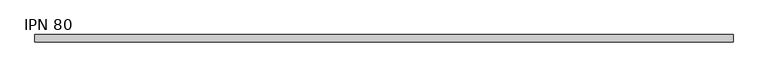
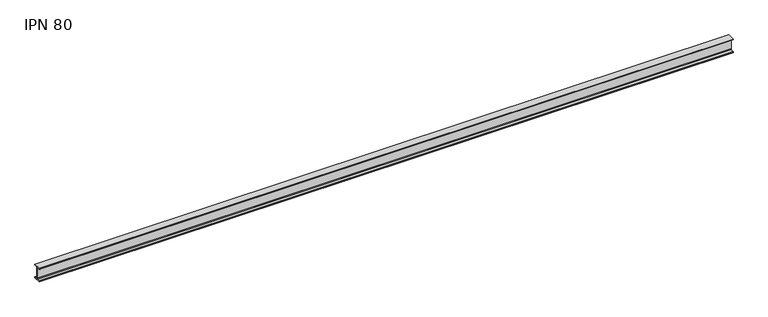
"""IFC4 building model written with IfcOpenShell, lengths in millimetres: beam geometry, IPN - Secciones en I con alas cónicas : IPN 80."""

import ifcopenshell
import ifcopenshell.guid

model = None  # the IFC model being written
_history = None  # IfcOwnerHistory: only IFC2X3 demands one
_inside = {}  # id of a spatial element -> (the spatial element, [elements in it])
_under = {}  # id of a project, library or spatial element -> (it, [spatial elements below it])
_declared = {}  # id of a project -> (the project, [libraries it declares])
_typed = {}  # id of a type object -> (the type object, [elements of that type])
_made_of = {}  # id of a material, layer set ... -> (it, [elements and type objects made of it])


def new_model(schema):
    """Start an empty IFC model of exactly this schema.

    Asked for "IFC4X3", IfcOpenShell would pick the latest addendum, in which some entities
    have other attributes; the version numbers below select the first issue.
    IFC2X3 requires an IfcOwnerHistory on every rooted entity: one is made here for all.
    """
    global model, _history
    if schema == "IFC4X3":
        model = ifcopenshell.file(schema_version=(4, 3, 0, 0))
    else:
        model = ifcopenshell.file(schema=schema)
    _inside.clear()
    _under.clear()
    _declared.clear()
    _typed.clear()
    _made_of.clear()
    _history = None
    if model.schema == "IFC2X3":
        org = make("IfcOrganization", Name="unknown")
        user = make(
            "IfcPersonAndOrganization",
            ThePerson=make("IfcPerson", FamilyName="unknown"),
            TheOrganization=org,
        )
        app = make(
            "IfcApplication",
            ApplicationDeveloper=org,
            Version="unknown",
            ApplicationFullName="unknown",
            ApplicationIdentifier="unknown",
        )
        _history = make(
            "IfcOwnerHistory",
            OwningUser=user,
            OwningApplication=app,
            ChangeAction="ADDED",
            CreationDate=0,
        )
    return model


def make(cls, **values):
    """One entity of the class cls with the attributes given. An attribute that is None is left unset."""
    return model.create_entity(
        cls, **{name: value for name, value in values.items() if value is not None}
    )


def rooted(cls, **values):
    """An entity with a GlobalId (a new one), such as an element, a storey or a relation."""
    return make(cls, GlobalId=ifcopenshell.guid.new(), OwnerHistory=_history, **values)


def si_unit(unit_type, name, prefix=None):
    """IfcSIUnit, for example si_unit("LENGTHUNIT", "METRE", prefix="MILLI")."""
    return make("IfcSIUnit", UnitType=unit_type, Prefix=prefix, Name=name)


def assignment(units):
    """IfcUnitAssignment: the units of a project."""
    return None if units is None else make("IfcUnitAssignment", Units=units)


def point(xyz):
    """IfcCartesianPoint."""
    return None if xyz is None else make("IfcCartesianPoint", Coordinates=xyz)


def direction(xyz):
    """IfcDirection."""
    return None if xyz is None else make("IfcDirection", DirectionRatios=xyz)


def frame(location, z_axis=None, x_axis=None):
    """IfcAxis2Placement3D, a coordinate frame: its origin and axes. An axis left out is left unset."""
    return make(
        "IfcAxis2Placement3D",
        Location=point(location),
        Axis=direction(z_axis),
        RefDirection=direction(x_axis),
    )


def frame_2d(location, x_axis=None):
    """IfcAxis2Placement2D, a coordinate frame in the plane: its origin and x axis."""
    return make(
        "IfcAxis2Placement2D", Location=point(location), RefDirection=direction(x_axis)
    )


def origin():
    """The frame at (0, 0, 0) with its axes left unset."""
    return frame((0.0, 0.0, 0.0))


def place(relative_to, where):
    """IfcLocalPlacement: puts the frame where relative to a parent placement (None: the world)."""
    return make(
        "IfcLocalPlacement", PlacementRelTo=relative_to, RelativePlacement=where
    )


def context(
    kind, dimensions, precision=None, world=None, true_north=None, identifier=None
):
    """IfcGeometricRepresentationContext, for example the 3D "Model" context."""
    return make(
        "IfcGeometricRepresentationContext",
        ContextIdentifier=identifier,
        ContextType=kind,
        CoordinateSpaceDimension=dimensions,
        Precision=precision,
        WorldCoordinateSystem=world,
        TrueNorth=true_north,
    )


def project(units=None, contexts=None):
    """IfcProject with its units and contexts."""
    return rooted(
        "IfcProject",
        Name="project",
        RepresentationContexts=contexts,
        UnitsInContext=assignment(units),
    )


def spatial(cls, under=None, at=None, **own):
    """A site, building, storey or space (cls), placed at a placement, below another one or the project."""
    s = rooted(cls, ObjectPlacement=at, **own)
    if under is not None:
        _under.setdefault(under.id(), (under, []))[1].append(s)
    return s


def polyline(points):
    """IfcPolyline through the points."""
    return make("IfcPolyline", Points=[point(p) for p in points])


def circle_curve(where, radius):
    """IfcCircle in the frame where."""
    return make("IfcCircle", Position=where, Radius=radius)


def trimmed(basis, trim1, trim2, sense, master):
    """IfcTrimmedCurve: the piece of a basis curve between two trims."""
    return make(
        "IfcTrimmedCurve",
        BasisCurve=basis,
        Trim1=trim1,
        Trim2=trim2,
        SenseAgreement=sense,
        MasterRepresentation=master,
    )


def segment(curve, same_sense, transition):
    """IfcCompositeCurveSegment."""
    return make(
        "IfcCompositeCurveSegment",
        Transition=transition,
        SameSense=same_sense,
        ParentCurve=curve,
    )


def composite_curve(segments, self_intersect=None):
    """IfcCompositeCurve: segments joined end to end."""
    return make("IfcCompositeCurve", Segments=segments, SelfIntersect=self_intersect)


def outline(outer, holes=None, kind="AREA"):
    """IfcArbitraryClosedProfileDef: a profile drawn as a closed curve; with holes, ...WithVoids."""
    if holes is None:
        return make("IfcArbitraryClosedProfileDef", ProfileType=kind, OuterCurve=outer)
    return make(
        "IfcArbitraryProfileDefWithVoids",
        ProfileType=kind,
        OuterCurve=outer,
        InnerCurves=holes,
    )


def extrude(swept, where, along, depth):
    """IfcExtrudedAreaSolid: the profile swept, set in the frame where, extruded along a direction by depth."""
    return make(
        "IfcExtrudedAreaSolid",
        SweptArea=swept,
        Position=where,
        ExtrudedDirection=direction(along),
        Depth=depth,
    )


def shape(context_of_items, identifier, shape_type, items):
    """IfcShapeRepresentation: the items that make up one representation, for example the "Body"."""
    return make(
        "IfcShapeRepresentation",
        ContextOfItems=context_of_items,
        RepresentationIdentifier=identifier,
        RepresentationType=shape_type,
        Items=items,
    )


def source(mapping_origin, context_of_items, identifier, shape_type, items):
    """IfcRepresentationMap: a shape defined once, which mapped items show again and again."""
    return make(
        "IfcRepresentationMap",
        MappingOrigin=mapping_origin,
        MappedRepresentation=shape(context_of_items, identifier, shape_type, items),
    )


def transform(
    local_origin,
    x_axis=None,
    y_axis=None,
    z_axis=None,
    scale=None,
    scale2=None,
    scale3=None,
    uniform=True,
):
    """IfcCartesianTransformationOperator3D, or its non-uniform kind. x_axis, y_axis, z_axis: its Axis1, 2, 3."""
    if uniform:
        return make(
            "IfcCartesianTransformationOperator3D",
            Axis1=direction(x_axis),
            Axis2=direction(y_axis),
            LocalOrigin=point(local_origin),
            Scale=scale,
            Axis3=direction(z_axis),
        )
    return make(
        "IfcCartesianTransformationOperator3DnonUniform",
        Axis1=direction(x_axis),
        Axis2=direction(y_axis),
        LocalOrigin=point(local_origin),
        Scale=scale,
        Axis3=direction(z_axis),
        Scale2=scale2,
        Scale3=scale3,
    )


def mapped(mapping_source, mapping_target):
    """IfcMappedItem: shows the shape of a source again, moved by a transform."""
    return make(
        "IfcMappedItem", MappingSource=mapping_source, MappingTarget=mapping_target
    )


def made_of(thing, what):
    """Note that an element or type object is made of a material, layer set ...; save() writes the relation."""
    if what is not None:
        _made_of.setdefault(what.id(), (what, []))[1].append(thing)
    return thing


def element(
    cls,
    number,
    at=None,
    inside=None,
    cuts=None,
    type_object=None,
    material=None,
    context=None,
    identifier="Body",
    shape_type=None,
    held_by="IfcProductDefinitionShape",
    body=None,
    shapes=None,
    **own,
):
    """One element of the class cls, such as IfcWall. Its Tag is "e" and its number.

    at: its placement. inside: the storey or other place that contains it. cuts: it is an
    opening in that element (IfcRelVoidsElement). A single representation is given by context,
    identifier, shape_type and body (its items); several are given by shapes. held_by: the class
    of the entity that holds the representations. save() writes the other relations.
    """
    e = rooted(cls, Tag="e%d" % number, ObjectPlacement=at, **own)
    if body is not None:
        shapes = [shape(context, identifier, shape_type, body)]
    if shapes is not None:
        e.Representation = make(held_by, Representations=shapes)
    if inside is not None:
        _inside.setdefault(inside.id(), (inside, []))[1].append(e)
    if cuts is not None:
        rooted(
            "IfcRelVoidsElement", RelatingBuildingElement=cuts, RelatedOpeningElement=e
        )
    if type_object is not None:
        _typed.setdefault(type_object.id(), (type_object, []))[1].append(e)
    return made_of(e, material)


def aggregate(whole, parts):
    """IfcRelAggregates: a whole, such as a stair, and the parts it consists of."""
    return rooted("IfcRelAggregates", RelatingObject=whole, RelatedObjects=parts)


def save(model, path):
    """Write the relations noted so far, then the file.

    IfcRelAggregates (storeys below a building ...), IfcRelContainedInSpatialStructure (elements
    in a storey), IfcRelDefinesByType, IfcRelAssociatesMaterial and IfcRelDeclares: one each for
    every whole, place, type object, material and project.
    """
    for whole, parts in _under.values():
        aggregate(whole, parts)
    for where, things in _inside.values():
        rooted(
            "IfcRelContainedInSpatialStructure",
            RelatedElements=things,
            RelatingStructure=where,
        )
    for kind, things in _typed.values():
        rooted("IfcRelDefinesByType", RelatedObjects=things, RelatingType=kind)
    for what, things in _made_of.values():
        rooted("IfcRelAssociatesMaterial", RelatedObjects=things, RelatingMaterial=what)
    for by, libraries in _declared.values():
        rooted("IfcRelDeclares", RelatingContext=by, RelatedDefinitions=libraries)
    model.write(path)


def ipn_80_99c5317e(model_context):
    return source(origin(), model_context, "Body", "SweptSolid", [
        extrude(outline(composite_curve([segment(polyline([(21.0, 40.0), (21.0, 37.5704306)]), True, "CONTINUOUS"), segment(trimmed(circle_curve(frame_2d((18.7, 37.5704306)), 2.3), [point((21.0, 37.5704306))], [point((19.01889, 35.2926446))], False, "CARTESIAN"), True, "CONTINUOUS"), segment(polyline([(19.01889, 35.2926446), (5.3092734, 33.3732983)]), True, "CONTINUOUS"), segment(trimmed(circle_curve(frame_2d((5.85, 29.5109655)), 3.9), [point((5.3092734, 33.3732983))], [point((1.95, 29.5109655))], True, "CARTESIAN"), True, "CONTINUOUS"), segment(polyline([(1.95, 29.5109655), (1.95, -29.5109655)]), True, "CONTINUOUS"), segment(trimmed(circle_curve(frame_2d((5.85, -29.5109655)), 3.9), [point((1.95, -29.5109655))], [point((5.3092734, -33.3732983))], True, "CARTESIAN"), True, "CONTINUOUS"), segment(polyline([(5.3092734, -33.3732983), (19.01889, -35.2926446)]), True, "CONTINUOUS"), segment(trimmed(circle_curve(frame_2d((18.7, -37.5704306)), 2.3), [point((19.01889, -35.2926446))], [point((21.0, -37.5704306))], False, "CARTESIAN"), True, "CONTINUOUS"), segment(polyline([(21.0, -37.5704306), (21.0, -40.0), (-21.0, -40.0), (-21.0, -37.5704306)]), True, "CONTINUOUS"), segment(trimmed(circle_curve(frame_2d((-18.7, -37.5704306)), 2.3), [point((-21.0, -37.5704306))], [point((-19.01889, -35.2926446))], False, "CARTESIAN"), True, "CONTINUOUS"), segment(polyline([(-19.01889, -35.2926446), (-5.3092734, -33.3732983)]), True, "CONTINUOUS"), segment(trimmed(circle_curve(frame_2d((-5.85, -29.5109655)), 3.9), [point((-5.3092734, -33.3732983))], [point((-1.95, -29.5109655))], True, "CARTESIAN"), True, "CONTINUOUS"), segment(polyline([(-1.95, -29.5109655), (-1.95, 29.5109655)]), True, "CONTINUOUS"), segment(trimmed(circle_curve(frame_2d((-5.85, 29.5109655)), 3.9), [point((-1.95, 29.5109655))], [point((-5.3092734, 33.3732983))], True, "CARTESIAN"), True, "CONTINUOUS"), segment(polyline([(-5.3092734, 33.3732983), (-19.01889, 35.2926446)]), True, "CONTINUOUS"), segment(trimmed(circle_curve(frame_2d((-18.7, 37.5704306)), 2.3), [point((-19.01889, 35.2926446))], [point((-21.0, 37.5704306))], False, "CARTESIAN"), True, "CONTINUOUS"), segment(polyline([(-21.0, 37.5704306), (-21.0, 40.0), (21.0, 40.0)]), True, "CONTINUOUS")], self_intersect=False)), frame((-1963.85, 0.0, 0.0), z_axis=(1.0, 0.0, 0.0), x_axis=(0.0, 1.0, 0.0)), (0.0, 0.0, 1.0), 3913.85),
    ])


if __name__ == "__main__":
    model = new_model("IFC4")
    model_context = context("Model", 3, world=origin())
    ifc_project = project(units=[si_unit("LENGTHUNIT", "METRE", prefix="MILLI")], contexts=[model_context])
    site = spatial("IfcSite", under=ifc_project)
    building = spatial("IfcBuilding", under=site)
    placement = place(None, origin())
    ipn_80_shape = ipn_80_99c5317e(model_context)
    element("IfcBeam", 1, ObjectType="IPN - Secciones en I con alas cónicas : IPN 80", at=placement, inside=building, context=model_context, shape_type="MappedRepresentation", body=[
        mapped(ipn_80_shape, transform((0.0, 0.0, 0.0), x_axis=(1.0, 0.0, 0.0), y_axis=(0.0, 1.0, 0.0), z_axis=(0.0, 0.0, 1.0))),
    ])
    save(model, "model.ifc")
